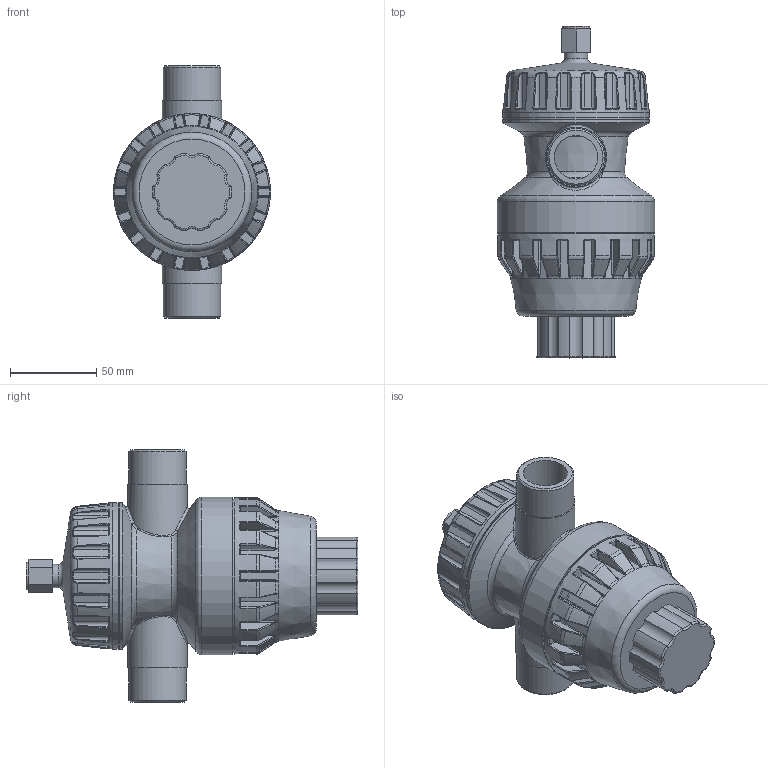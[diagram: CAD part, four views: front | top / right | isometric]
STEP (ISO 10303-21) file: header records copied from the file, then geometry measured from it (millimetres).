
FILE_DESCRIPTION(/* description */ ('Universal Pressure Regulator UPR 550'),/* implementation_level */ '2;1');
FILE_NAME(/* name */ 'C:\Dropbox\99-16-3568-Processing\Mechanical Fittings\0220\0220.ipt.stp',/* time_stamp */ '2021-07-04T14:18:16+03:00',/* author */ ('KIM'),/* organization */ (''),/* preprocessor_version */ 'ST-DEVELOPER v17.2',/* originating_system */ 'Autodesk Inventor 2019',/* authorisation */ '');
FILE_SCHEMA (('AUTOMOTIVE_DESIGN { 1 0 10303 214 3 1 1 }'));
Products named in the file (1): 0220
Bounding box: 91 x 192 x 146 mm (x, y, z)
Volume: 754055.2 mm3; surface area: 73658.9 mm2
Topology: 1 solids, 1 shells, 1206 faces, 2776 edges, 1581 vertices
Faces by surface type: bspline 568, cylinder 250, torus 176, plane 145, sphere 36, cone 31
Full cylindrical faces by diameter (mm): 13.5 x1, 16.1 x1, 25.249 x2, 33.249 x2, 34.5 x2, 83.6 x1, 85 x2, 89.1 x1, 90.5 x1, 91 x1
Entity records: 45926 total; most frequent: CARTESIAN_POINT 21783, ORIENTED_EDGE 5550, DIRECTION 4228, EDGE_CURVE 2775, AXIS2_PLACEMENT_3D 1886, VERTEX_POINT 1582, CIRCLE 1247, EDGE_LOOP 1217
